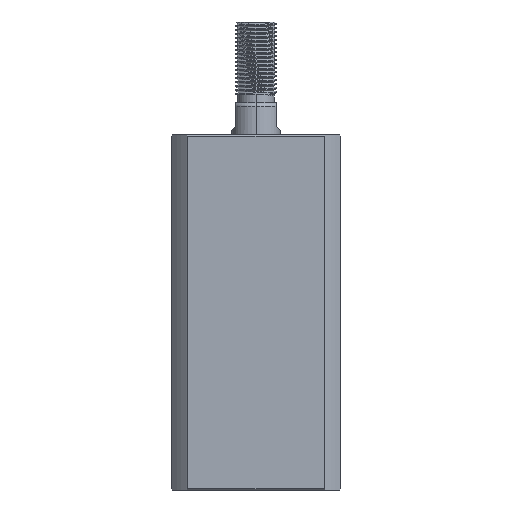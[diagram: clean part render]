
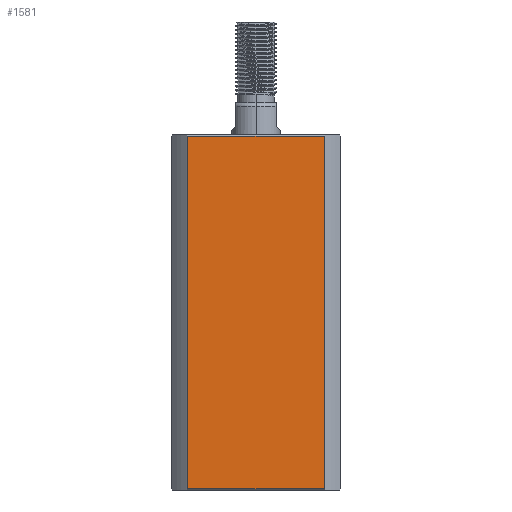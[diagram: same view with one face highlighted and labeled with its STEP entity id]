
A CAD part, left-side view. The second image highlights one B-rep face of the part: STEP entity #1581.
In plain terms, the highlighted planar face has unit normal (-1, 0, 0).
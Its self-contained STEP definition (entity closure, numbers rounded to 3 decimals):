
#644 = EDGE_LOOP ( 'NONE', ( #3185, #6964, #6982, #13789 ) ) ;
#860 = LINE ( 'NONE', #11913, #9769 ) ;
#972 = EDGE_CURVE ( 'NONE', #10664, #3368, #9590, .T. ) ;
#1581 = ADVANCED_FACE ( 'NONE', ( #9764 ), #14031, .F. ) ;
#2449 = CARTESIAN_POINT ( 'NONE',  ( -21., 16.971, 87.7 ) ) ;
#2670 = EDGE_CURVE ( 'NONE', #10664, #9753, #860, .T. ) ;
#2820 = EDGE_CURVE ( 'NONE', #8868, #3368, #5944, .T. ) ;
#3185 = ORIENTED_EDGE ( 'NONE', *, *, #2820, .F. ) ;
#3368 = VERTEX_POINT ( 'NONE', #2449 ) ;
#3722 = VECTOR ( 'NONE', #13989, 1000. ) ;
#5300 = CARTESIAN_POINT ( 'NONE',  ( -21., 16.971, 0.3 ) ) ;
#5944 = LINE ( 'NONE', #8998, #12071 ) ;
#6418 = LINE ( 'NONE', #7141, #3722 ) ;
#6506 = VECTOR ( 'NONE', #13892, 1000. ) ;
#6825 = CARTESIAN_POINT ( 'NONE',  ( -21., -16.971, 0.3 ) ) ;
#6964 = ORIENTED_EDGE ( 'NONE', *, *, #12568, .T. ) ;
#6982 = ORIENTED_EDGE ( 'NONE', *, *, #2670, .F. ) ;
#7141 = CARTESIAN_POINT ( 'NONE',  ( -21., 21., 0.3 ) ) ;
#7752 = CARTESIAN_POINT ( 'NONE',  ( -21., -16.971, 87.7 ) ) ;
#7845 = DIRECTION ( 'NONE',  ( 0., 0., 1. ) ) ;
#8868 = VERTEX_POINT ( 'NONE', #5300 ) ;
#8998 = CARTESIAN_POINT ( 'NONE',  ( -21., 16.971, -92. ) ) ;
#9590 = LINE ( 'NONE', #12754, #6506 ) ;
#9753 = VERTEX_POINT ( 'NONE', #6825 ) ;
#9764 = FACE_OUTER_BOUND ( 'NONE', #644, .T. ) ;
#9769 = VECTOR ( 'NONE', #12115, 1000. ) ;
#10664 = VERTEX_POINT ( 'NONE', #7752 ) ;
#11913 = CARTESIAN_POINT ( 'NONE',  ( -21., -16.971, -92. ) ) ;
#12071 = VECTOR ( 'NONE', #7845, 1000. ) ;
#12115 = DIRECTION ( 'NONE',  ( 0., 0., -1. ) ) ;
#12568 = EDGE_CURVE ( 'NONE', #8868, #9753, #6418, .T. ) ;
#12754 = CARTESIAN_POINT ( 'NONE',  ( -21., 21., 87.7 ) ) ;
#13789 = ORIENTED_EDGE ( 'NONE', *, *, #972, .T. ) ;
#13892 = DIRECTION ( 'NONE',  ( 0., 1., 0. ) ) ;
#13989 = DIRECTION ( 'NONE',  ( 0., -1., 0. ) ) ;
#14031 = PLANE ( 'NONE',  #14598 ) ;
#14206 = CARTESIAN_POINT ( 'NONE',  ( -21., 21., 88. ) ) ;
#14242 = DIRECTION ( 'NONE',  ( 0., 1., 0. ) ) ;
#14273 = DIRECTION ( 'NONE',  ( 1., 0., 0. ) ) ;
#14598 = AXIS2_PLACEMENT_3D ( 'NONE', #14206, #14273, #14242 ) ;
